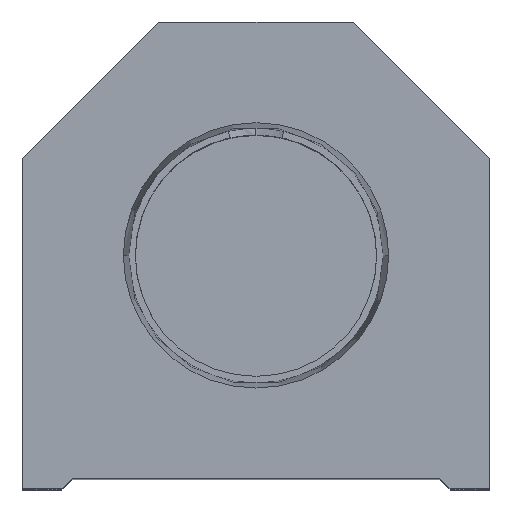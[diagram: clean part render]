
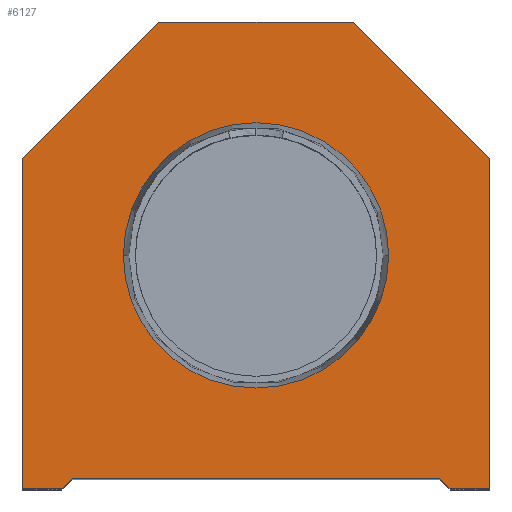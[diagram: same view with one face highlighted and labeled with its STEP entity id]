
A CAD part, top view. The second image highlights one B-rep face of the part: STEP entity #6127.
In plain terms, the highlighted planar face has unit normal (0, 0, 1).
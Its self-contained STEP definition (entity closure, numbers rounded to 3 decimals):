
#15 = CARTESIAN_POINT ( 'NONE',  ( 22.25, 0., 0. ) ) ;
#20 = ORIENTED_EDGE ( 'NONE', *, *, #15067, .T. ) ;
#345 = VERTEX_POINT ( 'NONE', #13132 ) ;
#447 = VERTEX_POINT ( 'NONE', #15305 ) ;
#680 = VERTEX_POINT ( 'NONE', #8396 ) ;
#697 = VECTOR ( 'NONE', #14898, 1000. ) ;
#826 = FACE_BOUND ( 'NONE', #13497, .T. ) ;
#1045 = CARTESIAN_POINT ( 'NONE',  ( 22.25, 0., 0. ) ) ;
#1087 = VECTOR ( 'NONE', #3798, 1000. ) ;
#1138 = PLANE ( 'NONE',  #8181 ) ;
#1237 = VECTOR ( 'NONE', #14116, 1000. ) ;
#1383 = ORIENTED_EDGE ( 'NONE', *, *, #11581, .T. ) ;
#1456 = CARTESIAN_POINT ( 'NONE',  ( -22.25, 31.5, 0. ) ) ;
#1541 = EDGE_CURVE ( 'NONE', #345, #9082, #15593, .T. ) ;
#1570 = EDGE_CURVE ( 'NONE', #447, #680, #7799, .T. ) ;
#1882 = CARTESIAN_POINT ( 'NONE',  ( 0., 22.25, 0. ) ) ;
#2312 = LINE ( 'NONE', #7504, #1087 ) ;
#2590 = DIRECTION ( 'NONE',  ( -1., 0., 0. ) ) ;
#2825 = CARTESIAN_POINT ( 'NONE',  ( 17.5, 0., 0. ) ) ;
#2832 = CARTESIAN_POINT ( 'NONE',  ( 22.25, 31.5, 0. ) ) ;
#3245 = CARTESIAN_POINT ( 'NONE',  ( -9.25, 9.25, 0. ) ) ;
#3309 = DIRECTION ( 'NONE',  ( 0., 0., 1. ) ) ;
#3390 = VECTOR ( 'NONE', #14838, 1000. ) ;
#3458 = CARTESIAN_POINT ( 'NONE',  ( -22.25, 0., 0. ) ) ;
#3762 = VECTOR ( 'NONE', #10533, 1000. ) ;
#3798 = DIRECTION ( 'NONE',  ( -0.707, -0.707, 0. ) ) ;
#3916 = EDGE_CURVE ( 'NONE', #10697, #5000, #8707, .T. ) ;
#3920 = LINE ( 'NONE', #2825, #1237 ) ;
#3928 = ORIENTED_EDGE ( 'NONE', *, *, #6965, .T. ) ;
#4270 = CARTESIAN_POINT ( 'NONE',  ( 17.5, 1., 0. ) ) ;
#4317 = CARTESIAN_POINT ( 'NONE',  ( 0., 22.25, 0. ) ) ;
#4459 = DIRECTION ( 'NONE',  ( 0.707, -0.707, 0. ) ) ;
#4815 = EDGE_CURVE ( 'NONE', #8199, #4850, #2312, .T. ) ;
#4850 = VERTEX_POINT ( 'NONE', #1456 ) ;
#4970 = CARTESIAN_POINT ( 'NONE',  ( 18.5, 0., 0. ) ) ;
#5000 = VERTEX_POINT ( 'NONE', #13879 ) ;
#5020 = FACE_OUTER_BOUND ( 'NONE', #12121, .T. ) ;
#5102 = VECTOR ( 'NONE', #10385, 1000. ) ;
#5134 = ORIENTED_EDGE ( 'NONE', *, *, #14824, .F. ) ;
#5174 = ORIENTED_EDGE ( 'NONE', *, *, #3916, .F. ) ;
#5262 = DIRECTION ( 'NONE',  ( 1., 0., 0. ) ) ;
#5494 = VECTOR ( 'NONE', #4459, 1000. ) ;
#5972 = DIRECTION ( 'NONE',  ( 0., 0., 1. ) ) ;
#6127 = ADVANCED_FACE ( 'NONE', ( #826, #5020 ), #1138, .T. ) ;
#6543 = CARTESIAN_POINT ( 'NONE',  ( -17.5, 1., 0. ) ) ;
#6544 = VECTOR ( 'NONE', #5262, 1000. ) ;
#6951 = EDGE_CURVE ( 'NONE', #9833, #7049, #3920, .T. ) ;
#6965 = EDGE_CURVE ( 'NONE', #680, #8199, #7957, .T. ) ;
#7049 = VERTEX_POINT ( 'NONE', #1045 ) ;
#7397 = VERTEX_POINT ( 'NONE', #15216 ) ;
#7504 = CARTESIAN_POINT ( 'NONE',  ( -22.25, 31.5, 0. ) ) ;
#7558 = ORIENTED_EDGE ( 'NONE', *, *, #1541, .T. ) ;
#7685 = ORIENTED_EDGE ( 'NONE', *, *, #12411, .T. ) ;
#7799 = LINE ( 'NONE', #2832, #3762 ) ;
#7861 = CARTESIAN_POINT ( 'NONE',  ( -17.5, 0., 0. ) ) ;
#7957 = LINE ( 'NONE', #15439, #12732 ) ;
#8181 = AXIS2_PLACEMENT_3D ( 'NONE', #10137, #5972, #16204 ) ;
#8199 = VERTEX_POINT ( 'NONE', #8362 ) ;
#8245 = CARTESIAN_POINT ( 'NONE',  ( -18.5, 0., 0. ) ) ;
#8362 = CARTESIAN_POINT ( 'NONE',  ( -9.25, 44.5, 0. ) ) ;
#8396 = CARTESIAN_POINT ( 'NONE',  ( 9.25, 44.5, 0. ) ) ;
#8452 = DIRECTION ( 'NONE',  ( 1., 0., 0. ) ) ;
#8602 = DIRECTION ( 'NONE',  ( 0., -1., 0. ) ) ;
#8707 = CIRCLE ( 'NONE', #15040, 12.647 ) ;
#8925 = LINE ( 'NONE', #3458, #12376 ) ;
#9082 = VERTEX_POINT ( 'NONE', #4270 ) ;
#9108 = ORIENTED_EDGE ( 'NONE', *, *, #13208, .T. ) ;
#9288 = ORIENTED_EDGE ( 'NONE', *, *, #6951, .T. ) ;
#9448 = DIRECTION ( 'NONE',  ( 0., 0., 1. ) ) ;
#9833 = VERTEX_POINT ( 'NONE', #4970 ) ;
#9935 = VERTEX_POINT ( 'NONE', #8245 ) ;
#10072 = ORIENTED_EDGE ( 'NONE', *, *, #10420, .T. ) ;
#10137 = CARTESIAN_POINT ( 'NONE',  ( 0., 0., 0. ) ) ;
#10385 = DIRECTION ( 'NONE',  ( 1., 0., 0. ) ) ;
#10420 = EDGE_CURVE ( 'NONE', #9935, #345, #10773, .T. ) ;
#10533 = DIRECTION ( 'NONE',  ( -0.707, 0.707, 0. ) ) ;
#10697 = VERTEX_POINT ( 'NONE', #11553 ) ;
#10773 = LINE ( 'NONE', #3245, #3390 ) ;
#10922 = LINE ( 'NONE', #15, #697 ) ;
#11068 = CARTESIAN_POINT ( 'NONE',  ( 9.25, 9.25, 0. ) ) ;
#11363 = LINE ( 'NONE', #7861, #6544 ) ;
#11553 = CARTESIAN_POINT ( 'NONE',  ( -12.647, 22.25, 0. ) ) ;
#11581 = EDGE_CURVE ( 'NONE', #7397, #9935, #11363, .T. ) ;
#11903 = CIRCLE ( 'NONE', #16424, 12.647 ) ;
#12121 = EDGE_LOOP ( 'NONE', ( #1383, #10072, #7558, #7685, #9288, #20, #15112, #3928, #13520, #9108 ) ) ;
#12376 = VECTOR ( 'NONE', #8602, 1000. ) ;
#12411 = EDGE_CURVE ( 'NONE', #9082, #9833, #14718, .T. ) ;
#12732 = VECTOR ( 'NONE', #2590, 1000. ) ;
#13132 = CARTESIAN_POINT ( 'NONE',  ( -17.5, 1., 0. ) ) ;
#13208 = EDGE_CURVE ( 'NONE', #4850, #7397, #8925, .T. ) ;
#13497 = EDGE_LOOP ( 'NONE', ( #5134, #5174 ) ) ;
#13520 = ORIENTED_EDGE ( 'NONE', *, *, #4815, .T. ) ;
#13879 = CARTESIAN_POINT ( 'NONE',  ( 12.647, 22.25, 0. ) ) ;
#14116 = DIRECTION ( 'NONE',  ( 1., 0., 0. ) ) ;
#14588 = DIRECTION ( 'NONE',  ( 1., 0., 0. ) ) ;
#14718 = LINE ( 'NONE', #11068, #5494 ) ;
#14824 = EDGE_CURVE ( 'NONE', #5000, #10697, #11903, .T. ) ;
#14838 = DIRECTION ( 'NONE',  ( 0.707, 0.707, 0. ) ) ;
#14898 = DIRECTION ( 'NONE',  ( 0., 1., 0. ) ) ;
#15040 = AXIS2_PLACEMENT_3D ( 'NONE', #1882, #3309, #8452 ) ;
#15067 = EDGE_CURVE ( 'NONE', #7049, #447, #10922, .T. ) ;
#15112 = ORIENTED_EDGE ( 'NONE', *, *, #1570, .T. ) ;
#15216 = CARTESIAN_POINT ( 'NONE',  ( -22.25, 0., 0. ) ) ;
#15305 = CARTESIAN_POINT ( 'NONE',  ( 22.25, 31.5, 0. ) ) ;
#15439 = CARTESIAN_POINT ( 'NONE',  ( 9.25, 44.5, 0. ) ) ;
#15593 = LINE ( 'NONE', #6543, #5102 ) ;
#16204 = DIRECTION ( 'NONE',  ( 1., 0., 0. ) ) ;
#16424 = AXIS2_PLACEMENT_3D ( 'NONE', #4317, #9448, #14588 ) ;
